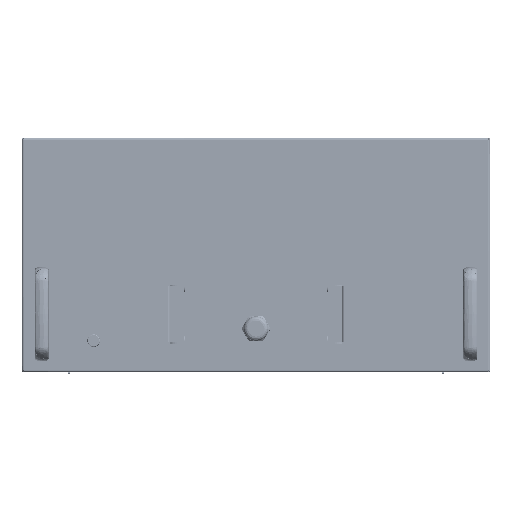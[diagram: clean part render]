
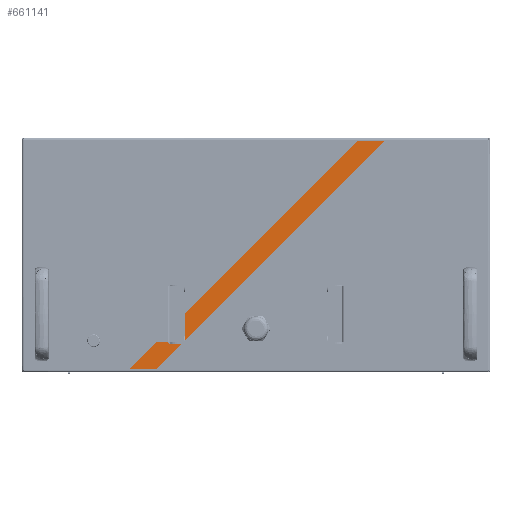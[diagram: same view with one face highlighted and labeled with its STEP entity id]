
A CAD part, top view. The second image highlights one B-rep face of the part: STEP entity #661141.
In plain terms, the highlighted planar face has unit normal (0, 0, 1).
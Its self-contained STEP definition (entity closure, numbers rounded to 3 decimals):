
#657671=CARTESIAN_POINT(' ',(127.5,145.,0.09));
#657672=VERTEX_POINT(' ',#657671);
#657686=CARTESIAN_POINT(' ',(162.5,145.,0.09));
#657691=DIRECTION(' ',(-1.,0.,0.));
#657696=VECTOR(' ',#657691,1.);
#657701=LINE('',#657686,#657696);
#657706=CARTESIAN_POINT(' ',(162.5,145.,0.09));
#657707=VERTEX_POINT(' ',#657706);
#657711=EDGE_CURVE(' ',#657707,#657672,#657701,.T.);
#660966=CARTESIAN_POINT(' ',(-162.5,-145.,0.09));
#660967=VERTEX_POINT(' ',#660966);
#660981=CARTESIAN_POINT(' ',(127.5,145.,0.09));
#660986=DIRECTION(' ',(-0.707,-0.707,0.));
#660991=VECTOR(' ',#660986,1.);
#660996=LINE('',#660981,#660991);
#661001=EDGE_CURVE(' ',#657672,#660967,#660996,.T.);
#661031=DIRECTION(' ',(-0.,0.,1.));
#661036=CARTESIAN_POINT(' ',(-162.5,-145.,0.09));
#661041=DIRECTION(' ',(1.,0.,0.));
#661046=AXIS2_PLACEMENT_3D(' ',#661036,#661031,#661041);
#661051=PLANE('NONE',#661046);
#661056=ORIENTED_EDGE(' ',*,*,#657711,.T.);
#661061=ORIENTED_EDGE(' ',*,*,#661001,.T.);
#661066=CARTESIAN_POINT(' ',(-162.5,-145.,0.09));
#661071=DIRECTION(' ',(1.,0.,0.));
#661076=VECTOR(' ',#661071,1.);
#661081=LINE('',#661066,#661076);
#661086=CARTESIAN_POINT(' ',(-127.5,-145.,0.09));
#661087=VERTEX_POINT(' ',#661086);
#661091=EDGE_CURVE(' ',#660967,#661087,#661081,.T.);
#661096=ORIENTED_EDGE(' ',*,*,#661091,.T.);
#661101=CARTESIAN_POINT(' ',(-127.5,-145.,0.09));
#661106=DIRECTION(' ',(0.707,0.707,0.));
#661111=VECTOR(' ',#661106,1.);
#661116=LINE('',#661101,#661111);
#661121=EDGE_CURVE(' ',#661087,#657707,#661116,.T.);
#661126=ORIENTED_EDGE(' ',*,*,#661121,.T.);
#661131=EDGE_LOOP(' ',(#661056,#661061,#661096,#661126));
#661136=FACE_OUTER_BOUND(' ',#661131,.T.);
#661141=ADVANCED_FACE('NONE',(#661136),#661051,.T.);
